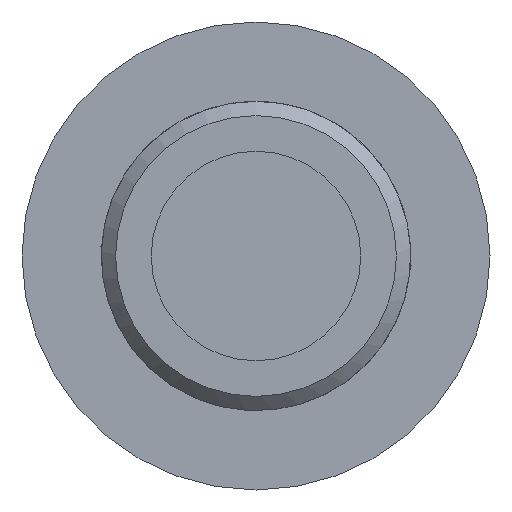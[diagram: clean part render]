
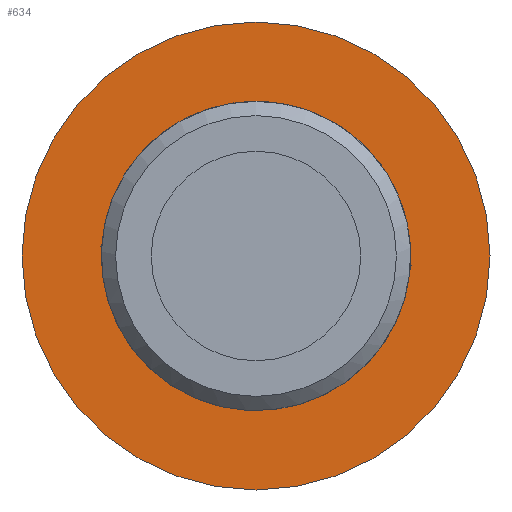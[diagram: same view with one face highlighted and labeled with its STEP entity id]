
A CAD part, front view. The second image highlights one B-rep face of the part: STEP entity #634.
In plain terms, the highlighted planar face has unit normal (0, -1, 0).
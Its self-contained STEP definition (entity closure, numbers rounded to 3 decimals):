
#4 = DIRECTION ( 'NONE',  ( 0., 1., 0. ) ) ;
#78 = DIRECTION ( 'NONE',  ( -1., 0., 0. ) ) ;
#163 = VERTEX_POINT ( 'NONE', #1312 ) ;
#166 = EDGE_LOOP ( 'NONE', ( #826 ) ) ;
#167 = VERTEX_POINT ( 'NONE', #1086 ) ;
#228 = AXIS2_PLACEMENT_3D ( 'NONE', #919, #371, #732 ) ;
#371 = DIRECTION ( 'NONE',  ( 0., 1., 0. ) ) ;
#398 = AXIS2_PLACEMENT_3D ( 'NONE', #926, #4, #846 ) ;
#570 = FACE_OUTER_BOUND ( 'NONE', #166, .T. ) ;
#634 = ADVANCED_FACE ( 'NONE', ( #1366, #570 ), #1487, .F. ) ;
#732 = DIRECTION ( 'NONE',  ( -1., 0., 0. ) ) ;
#826 = ORIENTED_EDGE ( 'NONE', *, *, #1310, .F. ) ;
#846 = DIRECTION ( 'NONE',  ( 0., 0., 1. ) ) ;
#881 = EDGE_LOOP ( 'NONE', ( #1427 ) ) ;
#902 = CARTESIAN_POINT ( 'NONE',  ( 0., 183.5, 0. ) ) ;
#919 = CARTESIAN_POINT ( 'NONE',  ( 15.05, 183.5, 0. ) ) ;
#926 = CARTESIAN_POINT ( 'NONE',  ( 0., 183.5, 0. ) ) ;
#1086 = CARTESIAN_POINT ( 'NONE',  ( 0., 183.5, 20. ) ) ;
#1177 = CIRCLE ( 'NONE', #1287, 8.5 ) ;
#1208 = EDGE_CURVE ( 'NONE', #163, #163, #1177, .T. ) ;
#1237 = CIRCLE ( 'NONE', #398, 20. ) ;
#1287 = AXIS2_PLACEMENT_3D ( 'NONE', #902, #1349, #78 ) ;
#1310 = EDGE_CURVE ( 'NONE', #167, #167, #1237, .T. ) ;
#1312 = CARTESIAN_POINT ( 'NONE',  ( -8.5, 183.5, 0. ) ) ;
#1349 = DIRECTION ( 'NONE',  ( 0., -1., 0. ) ) ;
#1366 = FACE_BOUND ( 'NONE', #881, .T. ) ;
#1427 = ORIENTED_EDGE ( 'NONE', *, *, #1208, .F. ) ;
#1487 = PLANE ( 'NONE',  #228 ) ;
